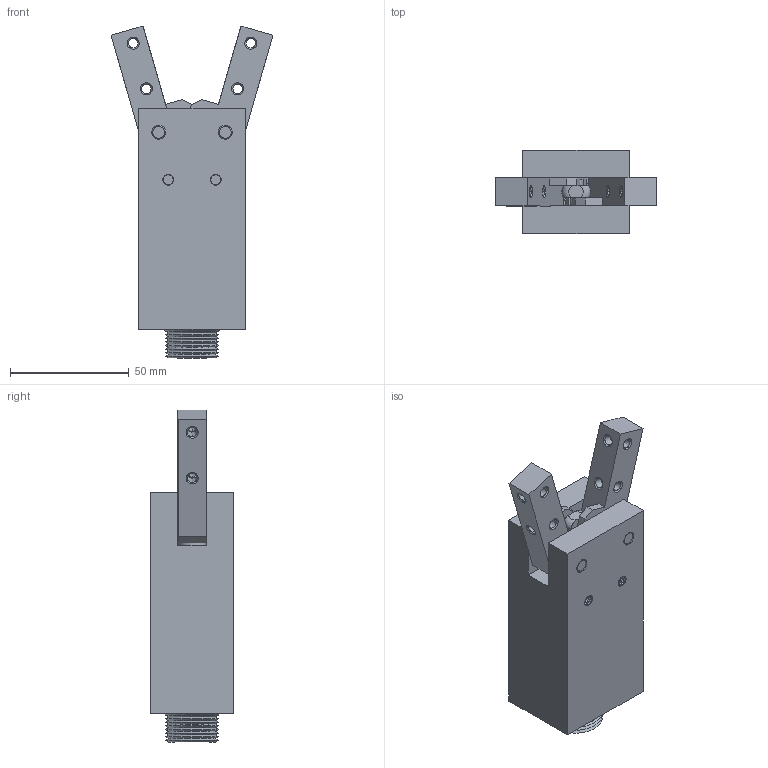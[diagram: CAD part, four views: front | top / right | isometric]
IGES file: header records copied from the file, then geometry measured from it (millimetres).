
Start section: SolidWorks IGES file using analytic representation for surfaces
Global section: file name: C:\Users\utente22\Desktop\3 D\MANI DI PRESA\MH-0 - ANGULAR GRIPPERS\Ø32\IGES\3D MH Ø 32.IGS; native system: SolidWorks 2014; preprocessor: SolidWorks 2014; author: utente22; date: 150511.083438; units: millimetre
Bounding box: 68.08 x 35 x 139.72 mm (x, y, z)
Volume: 150931.3 mm3; surface area: 42869.6 mm2
Topology: 4 solids, 4 shells, 534 faces, 2762 edges, 3507 vertices
Faces by surface type: revolution 358, plane 176
